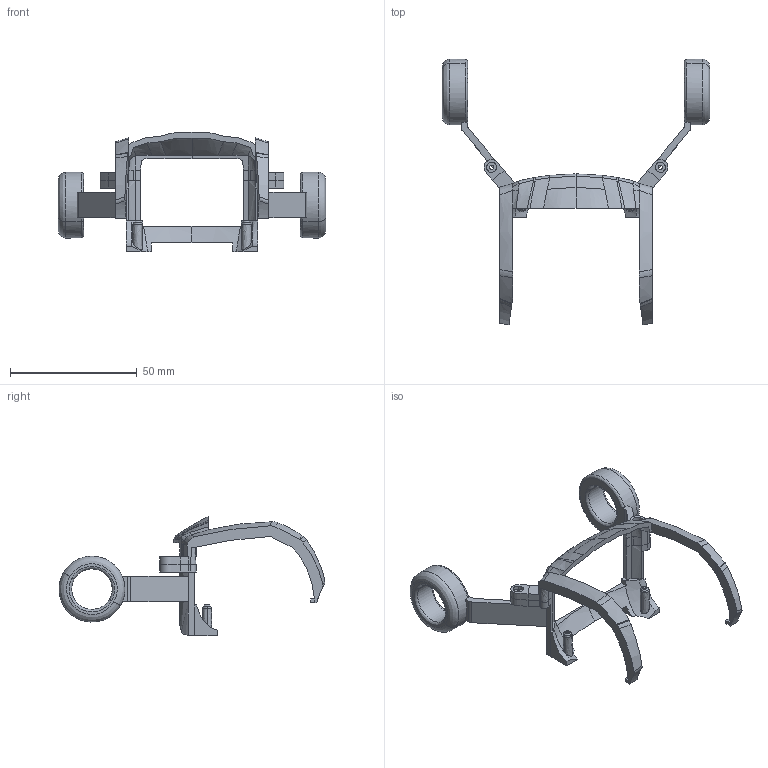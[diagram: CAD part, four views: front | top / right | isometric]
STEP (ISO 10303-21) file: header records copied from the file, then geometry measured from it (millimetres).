
FILE_DESCRIPTION(/* description */ (''),/* implementation_level */ '2;1');
FILE_NAME(/* name */ '0731调整',/* time_stamp */ '2023-07-31T22:39:12+08:00',/* author */ (''),/* organization */ (''),/* preprocessor_version */ 'ST-DEVELOPER v16.5',/* originating_system */ '',/* authorisation */ '');
FILE_SCHEMA (('AUTOMOTIVE_DESIGN'));
Length unit declared in the file: millimetre
Products named in the file (1): Document
Bounding box: 105.61 x 105.02 x 47 mm (x, y, z)
Volume: 5156 mm3; surface area: 13298.5 mm2
Topology: 1 solids, 2 shells, 291 faces, 746 edges, 463 vertices
Faces by surface type: bspline 196, plane 95
Entity records: 14434 total; most frequent: CARTESIAN_POINT 9897, ORIENTED_EDGE 1496, EDGE_CURVE 750, B_SPLINE_CURVE_WITH_KNOTS 515, VERTEX_POINT 463, EDGE_LOOP 307, ADVANCED_FACE 291, FACE_OUTER_BOUND 291
